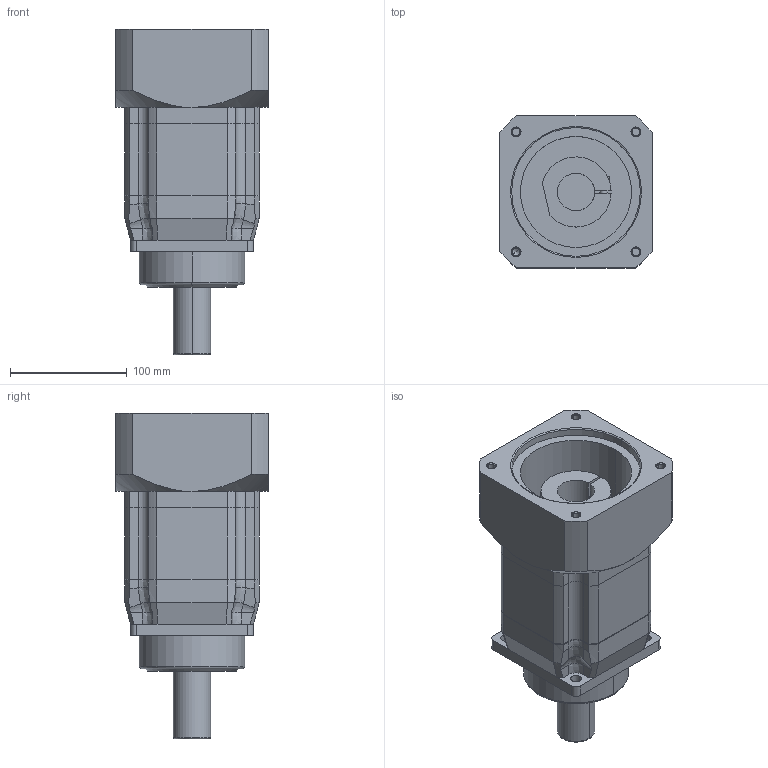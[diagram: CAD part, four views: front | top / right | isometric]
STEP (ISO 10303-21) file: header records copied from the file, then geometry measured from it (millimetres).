
FILE_DESCRIPTION((''),'2;1');
FILE_NAME('AF100A2-P0401400706_ASM','2020-01-08T',('D00080'),(''),'PRO/ENGINEER BY PARAMETRIC TECHNOLOGY CORPORATION, 2015240','PRO/ENGINEER BY PARAMETRIC TECHNOLOGY CORPORATION, 2015240','');
FILE_SCHEMA(('CONFIG_CONTROL_DESIGN'));
Length unit declared in the file: millimetre
Products named in the file (4): AF100A2; AB115A2-1; P0401400706; AF100A2-P0401400706_ASM
Assembly tree (3 placements, depth 2):
  AF100A2-P0401400706_ASM
    AF100A2
    AB115A2-1
    P0401400706
Bounding box: 130 x 130 x 278.5 mm (x, y, z)
Volume: 2185880.6 mm3; surface area: 208038.3 mm2
Topology: 3 solids, 8 shells, 283 faces, 689 edges, 426 vertices
Faces by surface type: plane 122, cylinder 89, bspline 36, cone 28, torus 8
Entity records: 10314 total; most frequent: CARTESIAN_POINT 3666, DIRECTION 1355, ORIENTED_EDGE 1348, EDGE_CURVE 685, AXIS2_PLACEMENT_3D 509, VERTEX_POINT 426, VECTOR 337, LINE 337
